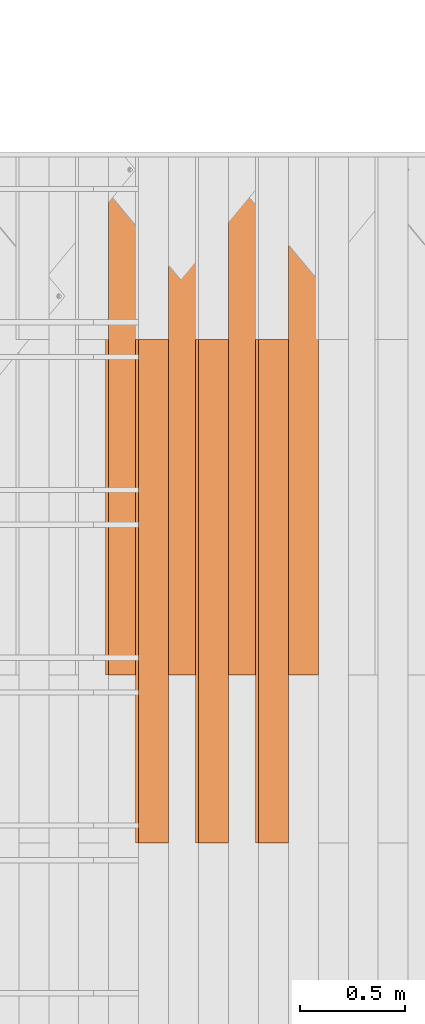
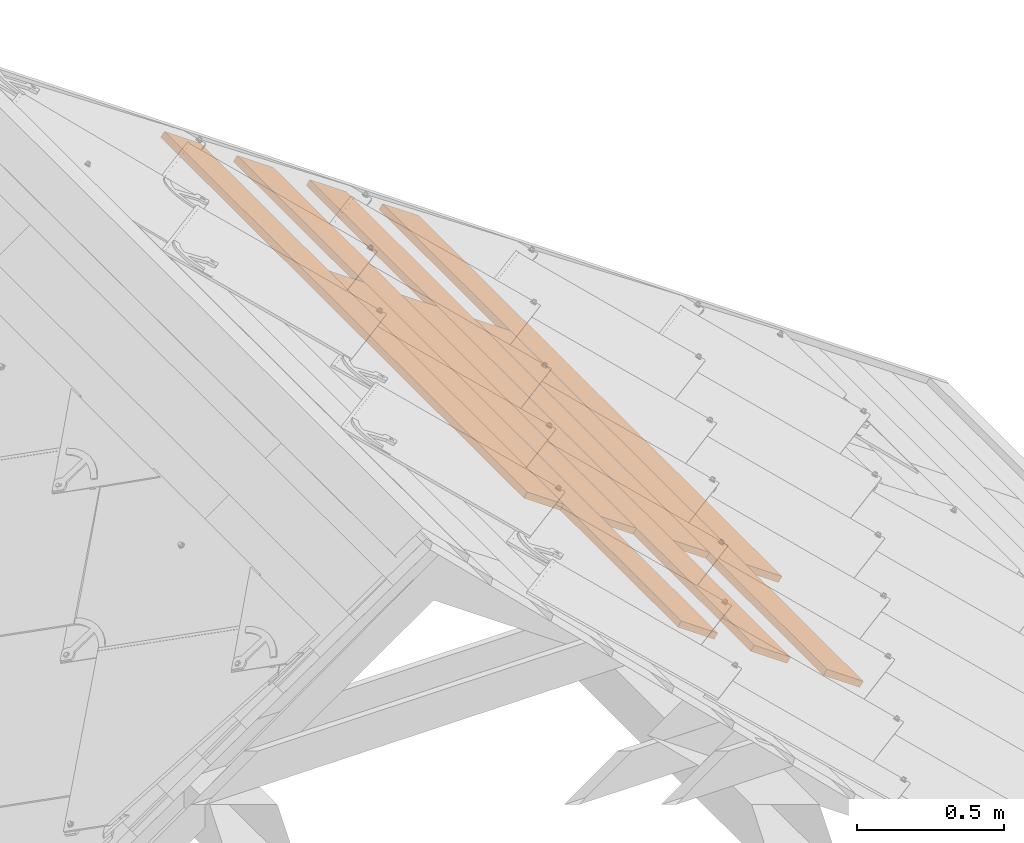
# One storey, part 66 of 133: 7 proxies, 1 element without a shape of its own.
"""IFC2X3 building model written with IfcOpenShell, lengths in millimetres."""

from ifc_helpers import new_model, entity, si_unit, converted_unit, derived_unit, direction, frame, frame_2d, origin, place, context, subcontext, project, spatial, rectangle, extrude, source, transform, mapped, material, type_object, type_shapes, element, aggregate, save


model = new_model("IFC2X3")

# Units and contexts
model_context = context("Model", 3, precision=0.01, world=origin(), true_north=direction((6.12303176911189e-17, 1.0)))
body_context = subcontext(model_context, "Body", "Model", "MODEL_VIEW")
ifc_project = project(units=[si_unit("LENGTHUNIT", "METRE", prefix="MILLI"), si_unit("AREAUNIT", "SQUARE_METRE"), si_unit("VOLUMEUNIT", "CUBIC_METRE"), converted_unit("PLANEANGLEUNIT", "DEGREE", entity("IfcRatioMeasure", 0.0174532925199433), si_unit("PLANEANGLEUNIT", "RADIAN"), dimensions=[0, 0, 0, 0, 0, 0, 0]), si_unit("MASSUNIT", "GRAM", prefix="KILO"), derived_unit("MASSDENSITYUNIT", [(si_unit("MASSUNIT", "GRAM", prefix="KILO"), 1), (si_unit("LENGTHUNIT", "METRE"), -3)]), si_unit("TIMEUNIT", "SECOND"), si_unit("FREQUENCYUNIT", "HERTZ"), si_unit("THERMODYNAMICTEMPERATUREUNIT", "DEGREE_CELSIUS"), derived_unit("THERMALTRANSMITTANCEUNIT", [(si_unit("MASSUNIT", "GRAM", prefix="KILO"), 1), (si_unit("THERMODYNAMICTEMPERATUREUNIT", "KELVIN"), -1), (si_unit("TIMEUNIT", "SECOND"), -3)]), derived_unit("VOLUMETRICFLOWRATEUNIT", [(si_unit("LENGTHUNIT", "METRE"), 3), (si_unit("TIMEUNIT", "SECOND"), -1)]), si_unit("ELECTRICCURRENTUNIT", "AMPERE"), si_unit("ELECTRICVOLTAGEUNIT", "VOLT"), si_unit("POWERUNIT", "WATT"), si_unit("FORCEUNIT", "NEWTON", prefix="KILO"), si_unit("ILLUMINANCEUNIT", "LUX"), si_unit("LUMINOUSFLUXUNIT", "LUMEN"), si_unit("LUMINOUSINTENSITYUNIT", "CANDELA"), derived_unit("USERDEFINED", [(si_unit("MASSUNIT", "GRAM", prefix="KILO"), -1), (si_unit("LENGTHUNIT", "METRE"), -2), (si_unit("TIMEUNIT", "SECOND"), 3), (si_unit("LUMINOUSFLUXUNIT", "LUMEN"), 1)]), derived_unit("LINEARVELOCITYUNIT", [(si_unit("LENGTHUNIT", "METRE"), 1), (si_unit("TIMEUNIT", "SECOND"), -1)]), si_unit("PRESSUREUNIT", "PASCAL"), derived_unit("USERDEFINED", [(si_unit("LENGTHUNIT", "METRE"), -2), (si_unit("MASSUNIT", "GRAM", prefix="KILO"), 1), (si_unit("TIMEUNIT", "SECOND"), -2)])], contexts=[model_context])

# Site, building, storey
site_placement = place(None, origin())
site = spatial("IfcSite", under=ifc_project, at=site_placement, Name="Default", CompositionType="ELEMENT")
building_placement = place(site_placement, origin())
building = spatial("IfcBuilding", under=site, at=building_placement, CompositionType="ELEMENT")
storey_placement = place(building_placement, origin())
storey = spatial("IfcBuildingStorey", under=building, at=storey_placement, Name="Level 1", CompositionType="ELEMENT", Elevation=0.0)

# Assembly, proxies
assembly_placement = place(storey_placement, origin())
assembly = element("IfcElementAssembly", 1, at=assembly_placement, inside=storey, Name="Structural Framing Assembly:Roof Construction Assembly", ObjectType="Structural Framing Assembly:Roof Construction Assembly", AssemblyPlace="NOTDEFINED", PredefinedType="USERDEFINED")
ifc_material = material(Name="Wood - Generic - Wood For Showcase")
building_element_proxy_type_1 = type_object("IfcBuildingElementProxyType", Name="Structural Framing 15", PredefinedType="NOTDEFINED", material=ifc_material)
shared_shape_1 = source(origin(), body_context, "Body", "SweptSolid", [
    extrude(rectangle(XDim=24.9999999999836, YDim=174.344679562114, at=frame_2d((3.73923114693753e-13, 6.3948846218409e-14), x_axis=(1.0, 0.0))), frame((1285.35601305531, 1455.55080214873, 2760.23940055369), z_axis=(0.0, 1.0, 0.0), x_axis=(0.573576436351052, 0.0, 0.819152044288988)), (0.0, 0.0, 1.0), 2469.99999999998),
])
type_shapes(building_element_proxy_type_1, [shared_shape_1])
proxy_1_placement = place(assembly_placement, frame((856.888804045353, 0.0, -600.0)))
proxy_1 = element("IfcBuildingElementProxy", 2, at=proxy_1_placement, type_object=building_element_proxy_type_1, material=ifc_material, Name="Structural Framing 185:Structural Framing 15", ObjectType="Structural Framing 185:Structural Framing 15", context=body_context, shape_type="MappedRepresentation", body=[
    mapped(shared_shape_1, transform((0.0, 0.0, 0.0), scale=1.0)),
])
building_element_proxy_type_2 = type_object("IfcBuildingElementProxyType", Name="Structural Framing 15", PredefinedType="NOTDEFINED", material=ifc_material)
shared_shape_2 = source(origin(), body_context, "Body", "SweptSolid", [
    extrude(rectangle(XDim=24.9999999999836, YDim=174.344679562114, at=frame_2d((2.97539770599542e-13, -4.2632564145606e-14), x_axis=(1.0, 0.0))), frame((1285.35601305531, 1525.55080214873, 2760.23940055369), z_axis=(0.0, 1.0, 0.0), x_axis=(0.573576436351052, 0.0, 0.819152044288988)), (0.0, 0.0, 1.0), 2399.99999999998),
])
type_shapes(building_element_proxy_type_2, [shared_shape_2])
proxy_2_placement = place(assembly_placement, frame((999.703604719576, -870.0, -700.0)))
proxy_2 = element("IfcBuildingElementProxy", 3, at=proxy_2_placement, type_object=building_element_proxy_type_2, material=ifc_material, Name="Structural Framing 190:Structural Framing 15", ObjectType="Structural Framing 190:Structural Framing 15", context=body_context, shape_type="MappedRepresentation", body=[
    mapped(shared_shape_2, transform((0.0, 0.0, 0.0), scale=1.0)),
])
building_element_proxy_type_3 = type_object("IfcBuildingElementProxyType", Name="Structural Framing 15", PredefinedType="NOTDEFINED", material=ifc_material)
shared_shape_3 = source(origin(), body_context, "Body", "SweptSolid", [
    extrude(rectangle(XDim=24.9999999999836, YDim=174.344679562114, at=frame_2d((3.73923114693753e-13, 6.3948846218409e-14), x_axis=(1.0, 0.0))), frame((1285.35601305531, 1455.55080214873, 2760.23940055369), z_axis=(0.0, 1.0, 0.0), x_axis=(0.573576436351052, 0.0, 0.819152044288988)), (0.0, 0.0, 1.0), 2469.99999999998),
])
type_shapes(building_element_proxy_type_3, [shared_shape_3])
proxy_3_placement = place(assembly_placement, frame((1142.5184053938, 0.0, -800.0)))
proxy_3 = element("IfcBuildingElementProxy", 4, at=proxy_3_placement, type_object=building_element_proxy_type_3, material=ifc_material, Name="Structural Framing 195:Structural Framing 15", ObjectType="Structural Framing 195:Structural Framing 15", context=body_context, shape_type="MappedRepresentation", body=[
    mapped(shared_shape_3, transform((0.0, 0.0, 0.0), scale=1.0)),
])
building_element_proxy_type_4 = type_object("IfcBuildingElementProxyType", Name="Structural Framing 15", PredefinedType="NOTDEFINED", material=ifc_material)
shared_shape_4 = source(origin(), body_context, "Body", "SweptSolid", [
    extrude(rectangle(XDim=24.9999999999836, YDim=174.344679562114, at=frame_2d((2.97539770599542e-13, -4.2632564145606e-14), x_axis=(1.0, 0.0))), frame((1285.35601305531, 1525.55080214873, 2760.23940055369), z_axis=(0.0, 1.0, 0.0), x_axis=(0.573576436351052, 0.0, 0.819152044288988)), (0.0, 0.0, 1.0), 2399.99999999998),
])
type_shapes(building_element_proxy_type_4, [shared_shape_4])
proxy_4_placement = place(assembly_placement, frame((1285.33320606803, -870.0, -900.0)))
proxy_4 = element("IfcBuildingElementProxy", 5, at=proxy_4_placement, type_object=building_element_proxy_type_4, material=ifc_material, Name="Structural Framing 200:Structural Framing 15", ObjectType="Structural Framing 200:Structural Framing 15", context=body_context, shape_type="MappedRepresentation", body=[
    mapped(shared_shape_4, transform((0.0, 0.0, 0.0), scale=1.0)),
])
building_element_proxy_type_5 = type_object("IfcBuildingElementProxyType", Name="Structural Framing 15", PredefinedType="NOTDEFINED", material=ifc_material)
shared_shape_5 = source(origin(), body_context, "Body", "SweptSolid", [
    extrude(rectangle(XDim=24.9999999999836, YDim=174.344679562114, at=frame_2d((3.73923114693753e-13, 6.3948846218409e-14), x_axis=(1.0, 0.0))), frame((1285.35601305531, 1455.55080214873, 2760.23940055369), z_axis=(0.0, 1.0, 0.0), x_axis=(0.573576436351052, 0.0, 0.819152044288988)), (0.0, 0.0, 1.0), 2469.99999999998),
])
type_shapes(building_element_proxy_type_5, [shared_shape_5])
proxy_5_placement = place(assembly_placement, frame((1428.14800674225, 0.0, -1000.0)))
proxy_5 = element("IfcBuildingElementProxy", 6, at=proxy_5_placement, type_object=building_element_proxy_type_5, material=ifc_material, Name="Structural Framing 205:Structural Framing 15", ObjectType="Structural Framing 205:Structural Framing 15", context=body_context, shape_type="MappedRepresentation", body=[
    mapped(shared_shape_5, transform((0.0, 0.0, 0.0), scale=1.0)),
])
building_element_proxy_type_6 = type_object("IfcBuildingElementProxyType", Name="Structural Framing 15", PredefinedType="NOTDEFINED", material=ifc_material)
shared_shape_6 = source(origin(), body_context, "Body", "SweptSolid", [
    extrude(rectangle(XDim=24.9999999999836, YDim=174.344679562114, at=frame_2d((2.97539770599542e-13, -4.2632564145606e-14), x_axis=(1.0, 0.0))), frame((1285.35601305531, 1525.55080214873, 2760.23940055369), z_axis=(0.0, 1.0, 0.0), x_axis=(0.573576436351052, 0.0, 0.819152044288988)), (0.0, 0.0, 1.0), 2399.99999999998),
])
type_shapes(building_element_proxy_type_6, [shared_shape_6])
proxy_6_placement = place(assembly_placement, frame((1570.96280741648, -870.0, -1100.0)))
proxy_6 = element("IfcBuildingElementProxy", 7, at=proxy_6_placement, type_object=building_element_proxy_type_6, material=ifc_material, Name="Structural Framing 210:Structural Framing 15", ObjectType="Structural Framing 210:Structural Framing 15", context=body_context, shape_type="MappedRepresentation", body=[
    mapped(shared_shape_6, transform((0.0, 0.0, 0.0), scale=1.0)),
])
building_element_proxy_type_7 = type_object("IfcBuildingElementProxyType", Name="Structural Framing 15", PredefinedType="NOTDEFINED", material=ifc_material)
shared_shape_7 = source(origin(), body_context, "Body", "SweptSolid", [
    extrude(rectangle(XDim=24.9999999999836, YDim=174.344679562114, at=frame_2d((3.73923114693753e-13, 6.3948846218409e-14), x_axis=(1.0, 0.0))), frame((1285.35601305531, 1455.55080214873, 2760.23940055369), z_axis=(0.0, 1.0, 0.0), x_axis=(0.573576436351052, 0.0, 0.819152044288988)), (0.0, 0.0, 1.0), 2469.99999999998),
])
type_shapes(building_element_proxy_type_7, [shared_shape_7])
proxy_7_placement = place(assembly_placement, frame((1713.7776080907, 0.0, -1200.0)))
proxy_7 = element("IfcBuildingElementProxy", 8, at=proxy_7_placement, type_object=building_element_proxy_type_7, material=ifc_material, Name="Structural Framing 215:Structural Framing 15", ObjectType="Structural Framing 215:Structural Framing 15", context=body_context, shape_type="MappedRepresentation", body=[
    mapped(shared_shape_7, transform((0.0, 0.0, 0.0), scale=1.0)),
])
aggregate(assembly, [proxy_1, proxy_2, proxy_3, proxy_4, proxy_5, proxy_6, proxy_7])

save(model, "model.ifc")
